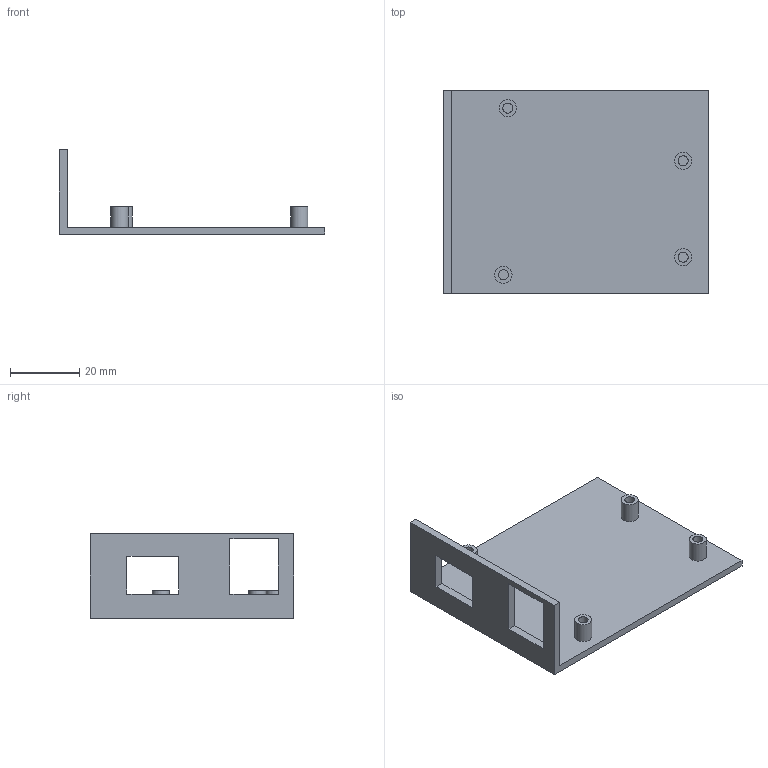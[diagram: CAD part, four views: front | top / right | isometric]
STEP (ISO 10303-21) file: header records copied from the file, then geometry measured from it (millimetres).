
FILE_DESCRIPTION(('Open CASCADE Model'),'2;1');
FILE_NAME('Open CASCADE Shape Model','2026-10-18T19:44:56',('Author'),( 'Open CASCADE'),'Open CASCADE STEP processor 7.9','Open CASCADE 7.9' ,'Unknown');
FILE_SCHEMA(('AUTOMOTIVE_DESIGN { 1 0 10303 214 1 1 1 1 }'));
Length unit declared in the file: millimetre
Products named in the file (1): Open CASCADE STEP translator 7.9 6
Bounding box: 77 x 59 x 24.5 mm (x, y, z)
Volume: 11717.2 mm3; surface area: 12388.3 mm2
Topology: 1 solids, 1 shells, 32 faces, 66 edges, 44 vertices
Faces by surface type: plane 24, cylinder 8
Full cylindrical faces by diameter (mm): 2.9 x4, 5 x4
Entity records: 1712 total; most frequent: CARTESIAN_POINT 357, DIRECTION 238, ORIENTED_EDGE 132, LINE 132, VECTOR 132, PCURVE 132, DEFINITIONAL_REPRESENTATION 132, EDGE_CURVE 66
